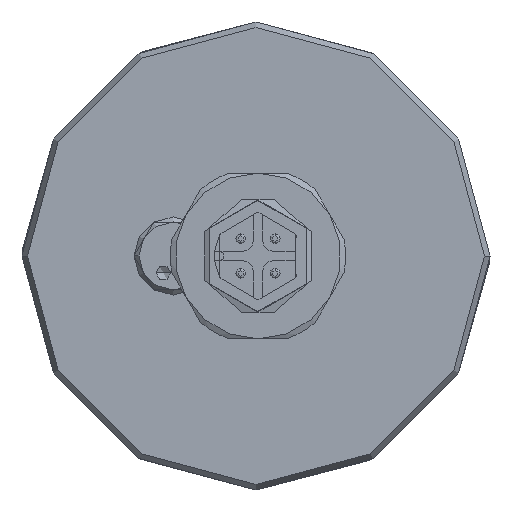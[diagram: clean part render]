
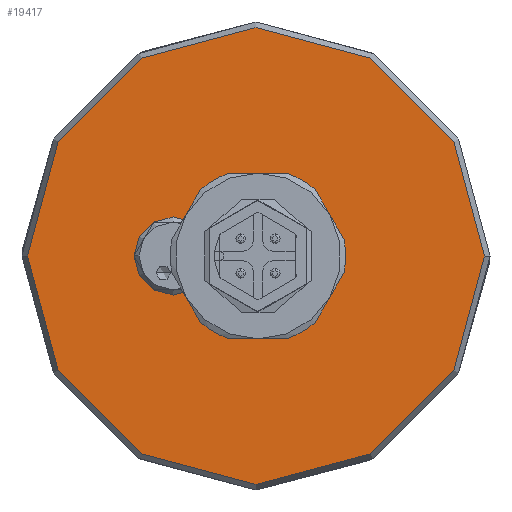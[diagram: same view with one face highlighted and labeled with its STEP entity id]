
A CAD part, left-side view. The second image highlights one B-rep face of the part: STEP entity #19417.
In plain terms, the highlighted planar face has unit normal (-1, 0, 0).
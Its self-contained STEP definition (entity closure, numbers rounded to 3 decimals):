
#6377=CARTESIAN_POINT('',(0.,0.,
0.));
#6378=DIRECTION('',(1.,0.,0.));
#6379=DIRECTION('',(0.,-1.,0.));
#6380=AXIS2_PLACEMENT_3D('',#6377,#6378,#6379);
#6382=CARTESIAN_POINT('',(0.,0.,
0.));
#6383=DIRECTION('',(1.,0.,0.));
#6384=DIRECTION('',(0.,0.,-1.));
#6385=AXIS2_PLACEMENT_3D('',#6382,#6383,#6384);
#6387=CARTESIAN_POINT('',(0.,0.,0.));
#6388=DIRECTION('',(1.,0.,0.));
#6389=DIRECTION('',(0.,1.,0.));
#6390=AXIS2_PLACEMENT_3D('',#6387,#6388,#6389);
#6392=CARTESIAN_POINT('',(0.,0.,0.));
#6393=DIRECTION('',(1.,0.,0.));
#6394=DIRECTION('',(0.,0.,1.));
#6395=AXIS2_PLACEMENT_3D('',#6392,#6393,#6394);
#6397=CARTESIAN_POINT('',(0.,8.5,0.));
#6398=DIRECTION('',(-1.,0.,0.));
#6399=DIRECTION('',(0.,-1.,0.));
#6400=AXIS2_PLACEMENT_3D('',#6397,#6398,#6399);
#6402=CARTESIAN_POINT('',(0.,8.5,0.));
#6403=DIRECTION('',(-1.,0.,0.));
#6404=DIRECTION('',(0.,1.,0.));
#6405=AXIS2_PLACEMENT_3D('',#6402,#6403,#6404);
#6407=CARTESIAN_POINT('',(0.,0.,0.));
#6408=DIRECTION('',(-1.,0.,0.));
#6409=DIRECTION('',(0.,0.,1.));
#6410=AXIS2_PLACEMENT_3D('',#6407,#6408,#6409);
#6412=CARTESIAN_POINT('',(0.,0.,0.));
#6413=DIRECTION('',(-1.,0.,0.));
#6414=DIRECTION('',(0.,0.,-1.));
#6415=AXIS2_PLACEMENT_3D('',#6412,#6413,#6414);
#8922=CARTESIAN_POINT('',(0.,0.,2.55));
#8923=CARTESIAN_POINT('',(0.,0.,-2.55));
#8924=VERTEX_POINT('',#8922);
#8925=VERTEX_POINT('',#8923);
#8926=CARTESIAN_POINT('',(0.,0.,
-23.422));
#8927=CARTESIAN_POINT('',(0.,23.422,
0.));
#8928=VERTEX_POINT('',#8926);
#8929=VERTEX_POINT('',#8927);
#8930=CARTESIAN_POINT('',(0.,-23.422,
0.));
#8931=VERTEX_POINT('',#8930);
#8932=CARTESIAN_POINT('',(0.,0.,
23.422));
#8933=VERTEX_POINT('',#8932);
#8934=CARTESIAN_POINT('',(0.,4.5,0.));
#8935=CARTESIAN_POINT('',(0.,12.5,0.));
#8936=VERTEX_POINT('',#8934);
#8937=VERTEX_POINT('',#8935);
#19391=CARTESIAN_POINT('',(0.,0.,0.));
#19392=DIRECTION('',(-1.,0.,0.));
#19393=DIRECTION('',(0.,1.,0.));
#19394=AXIS2_PLACEMENT_3D('',#19391,#19392,#19393);
#19395=PLANE('',#19394);
#19397=ORIENTED_EDGE('',*,*,#19396,.T.);
#19399=ORIENTED_EDGE('',*,*,#19398,.T.);
#19401=ORIENTED_EDGE('',*,*,#19400,.T.);
#19403=ORIENTED_EDGE('',*,*,#19402,.T.);
#19404=EDGE_LOOP('',(#19397,#19399,#19401,#19403));
#19405=FACE_OUTER_BOUND('',#19404,.F.);
#19407=ORIENTED_EDGE('',*,*,#19406,.T.);
#19409=ORIENTED_EDGE('',*,*,#19408,.T.);
#19410=EDGE_LOOP('',(#19407,#19409));
#19411=FACE_BOUND('',#19410,.F.);
#19412=ORIENTED_EDGE('',*,*,#19374,.T.);
#19414=ORIENTED_EDGE('',*,*,#19413,.T.);
#19415=EDGE_LOOP('',(#19412,#19414));
#19416=FACE_BOUND('',#19415,.F.);
#19417=ADVANCED_FACE('',(#19405,#19411,#19416),#19395,.T.);
#6381=CIRCLE('',#6380,23.422);
#6386=CIRCLE('',#6385,23.422);
#6391=CIRCLE('',#6390,23.422);
#6396=CIRCLE('',#6395,23.422);
#6401=CIRCLE('',#6400,4.);
#6406=CIRCLE('',#6405,4.);
#6411=CIRCLE('',#6410,2.55);
#6416=CIRCLE('',#6415,2.55);
#19374=EDGE_CURVE('',#8924,#8925,#6411,.T.);
#19396=EDGE_CURVE('',#8931,#8928,#6381,.T.);
#19398=EDGE_CURVE('',#8928,#8929,#6386,.T.);
#19400=EDGE_CURVE('',#8929,#8933,#6391,.T.);
#19402=EDGE_CURVE('',#8933,#8931,#6396,.T.);
#19406=EDGE_CURVE('',#8936,#8937,#6401,.T.);
#19408=EDGE_CURVE('',#8937,#8936,#6406,.T.);
#19413=EDGE_CURVE('',#8925,#8924,#6416,.T.);
